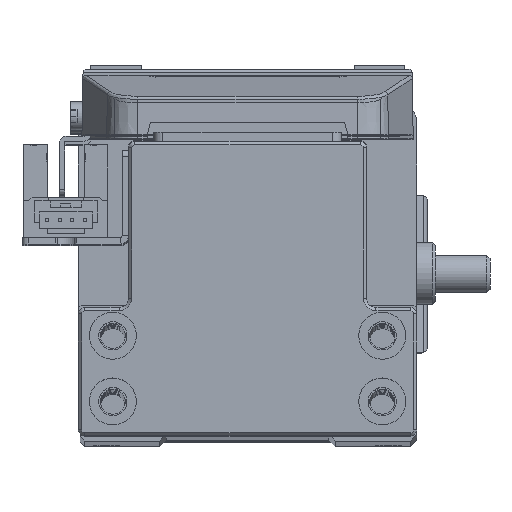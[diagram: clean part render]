
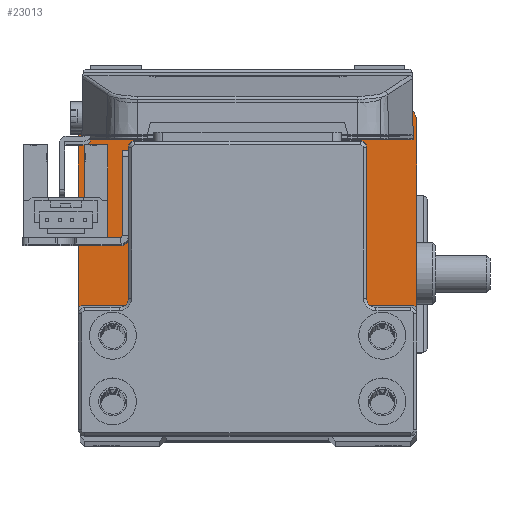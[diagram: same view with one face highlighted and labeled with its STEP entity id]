
A CAD part, top view. The second image highlights one B-rep face of the part: STEP entity #23013.
In plain terms, the highlighted planar face has unit normal (0, 0, 1) as drawn and (0, 0, -1) by its records, which use the part's own axes.
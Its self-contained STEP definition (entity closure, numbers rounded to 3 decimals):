
#109 = CARTESIAN_POINT ( 'NONE',  ( 24., 24., 0. ) ) ;
#119 = DIRECTION ( 'NONE',  ( 0., -1., 0. ) ) ;
#235 = CARTESIAN_POINT ( 'NONE',  ( -21.5, -11., 0. ) ) ;
#250 = CARTESIAN_POINT ( 'NONE',  ( -24., 27., 0. ) ) ;
#264 = DIRECTION ( 'NONE',  ( 1., 0., 0. ) ) ;
#674 = EDGE_CURVE ( 'NONE', #5716, #13326, #4754, .T. ) ;
#804 = VERTEX_POINT ( 'NONE', #8377 ) ;
#907 = VECTOR ( 'NONE', #10496, 1000. ) ;
#1185 = EDGE_CURVE ( 'NONE', #21847, #9971, #26968, .T. ) ;
#1578 = DIRECTION ( 'NONE',  ( 0., 1., 0. ) ) ;
#1796 = DIRECTION ( 'NONE',  ( 1., 0., 0. ) ) ;
#2059 = EDGE_LOOP ( 'NONE', ( #23356, #40995 ) ) ;
#2953 = DIRECTION ( 'NONE',  ( 1., 0., 0. ) ) ;
#3508 = EDGE_CURVE ( 'NONE', #32707, #42466, #27643, .T. ) ;
#3660 = ORIENTED_EDGE ( 'NONE', *, *, #9853, .T. ) ;
#3946 = DIRECTION ( 'NONE',  ( 0., 0., 1. ) ) ;
#4615 = CARTESIAN_POINT ( 'NONE',  ( -24., -27., 0. ) ) ;
#4754 = CIRCLE ( 'NONE', #29896, 2.25 ) ;
#4835 = DIRECTION ( 'NONE',  ( 0., 0., 1. ) ) ;
#5240 = DIRECTION ( 'NONE',  ( 0., 0., 1. ) ) ;
#5404 = ORIENTED_EDGE ( 'NONE', *, *, #22952, .F. ) ;
#5607 = DIRECTION ( 'NONE',  ( 0., 0., 1. ) ) ;
#5716 = VERTEX_POINT ( 'NONE', #20326 ) ;
#5763 = DIRECTION ( 'NONE',  ( 1., 0., 0. ) ) ;
#6099 = CARTESIAN_POINT ( 'NONE',  ( -24., -24., 0. ) ) ;
#6383 = DIRECTION ( 'NONE',  ( 1., 0., 0. ) ) ;
#7174 = DIRECTION ( 'NONE',  ( 0., 0., 1. ) ) ;
#7206 = VERTEX_POINT ( 'NONE', #18474 ) ;
#7450 = VERTEX_POINT ( 'NONE', #42638 ) ;
#7580 = LINE ( 'NONE', #33763, #29325 ) ;
#8377 = CARTESIAN_POINT ( 'NONE',  ( -23.75, -21.5, 0. ) ) ;
#9853 = EDGE_CURVE ( 'NONE', #804, #22405, #30072, .T. ) ;
#9971 = VERTEX_POINT ( 'NONE', #24951 ) ;
#10496 = DIRECTION ( 'NONE',  ( -1., 0., 0. ) ) ;
#10627 = ORIENTED_EDGE ( 'NONE', *, *, #15903, .F. ) ;
#11029 = ORIENTED_EDGE ( 'NONE', *, *, #11673, .F. ) ;
#11233 = CARTESIAN_POINT ( 'NONE',  ( 24., 27., 0. ) ) ;
#11360 = AXIS2_PLACEMENT_3D ( 'NONE', #43017, #5607, #5763 ) ;
#11560 = CIRCLE ( 'NONE', #43897, 2.25 ) ;
#11673 = EDGE_CURVE ( 'NONE', #17182, #15658, #23269, .T. ) ;
#11877 = CARTESIAN_POINT ( 'NONE',  ( -27., 24., 0. ) ) ;
#11894 = CIRCLE ( 'NONE', #14780, 2.25 ) ;
#11974 = CIRCLE ( 'NONE', #32589, 2.25 ) ;
#12334 = ORIENTED_EDGE ( 'NONE', *, *, #29062, .F. ) ;
#12718 = ORIENTED_EDGE ( 'NONE', *, *, #30400, .T. ) ;
#12838 = VERTEX_POINT ( 'NONE', #11877 ) ;
#13326 = VERTEX_POINT ( 'NONE', #15393 ) ;
#13417 = CIRCLE ( 'NONE', #37474, 2.25 ) ;
#13557 = ORIENTED_EDGE ( 'NONE', *, *, #3508, .F. ) ;
#13841 = EDGE_CURVE ( 'NONE', #32949, #14569, #35902, .T. ) ;
#14569 = VERTEX_POINT ( 'NONE', #20125 ) ;
#14780 = AXIS2_PLACEMENT_3D ( 'NONE', #19382, #39888, #43299 ) ;
#15393 = CARTESIAN_POINT ( 'NONE',  ( 19.25, -21.5, 0. ) ) ;
#15658 = VERTEX_POINT ( 'NONE', #22477 ) ;
#15709 = EDGE_CURVE ( 'NONE', #13326, #5716, #13417, .T. ) ;
#15903 = EDGE_CURVE ( 'NONE', #12838, #26441, #7580, .T. ) ;
#16059 = AXIS2_PLACEMENT_3D ( 'NONE', #42794, #5240, #28781 ) ;
#16433 = AXIS2_PLACEMENT_3D ( 'NONE', #27001, #33853, #23420 ) ;
#16570 = ORIENTED_EDGE ( 'NONE', *, *, #21167, .T. ) ;
#16580 = PLANE ( 'NONE',  #25799 ) ;
#17182 = VERTEX_POINT ( 'NONE', #34554 ) ;
#17190 = CIRCLE ( 'NONE', #11360, 3. ) ;
#17262 = EDGE_LOOP ( 'NONE', ( #32161, #30350 ) ) ;
#17641 = CARTESIAN_POINT ( 'NONE',  ( 27., 24., 0. ) ) ;
#18474 = CARTESIAN_POINT ( 'NONE',  ( -23.75, -11., 0. ) ) ;
#19382 = CARTESIAN_POINT ( 'NONE',  ( 21.5, -11., 0. ) ) ;
#19423 = AXIS2_PLACEMENT_3D ( 'NONE', #24060, #30891, #264 ) ;
#20125 = CARTESIAN_POINT ( 'NONE',  ( -24., 27., 0. ) ) ;
#20326 = CARTESIAN_POINT ( 'NONE',  ( 23.75, -21.5, 0. ) ) ;
#20399 = ORIENTED_EDGE ( 'NONE', *, *, #29406, .T. ) ;
#20546 = CIRCLE ( 'NONE', #16433, 2.25 ) ;
#21167 = EDGE_CURVE ( 'NONE', #22405, #804, #20546, .T. ) ;
#21391 = CARTESIAN_POINT ( 'NONE',  ( 21.5, -21.5, 0. ) ) ;
#21444 = AXIS2_PLACEMENT_3D ( 'NONE', #6099, #26671, #6383 ) ;
#21839 = CARTESIAN_POINT ( 'NONE',  ( 24., -24., 0. ) ) ;
#21847 = VERTEX_POINT ( 'NONE', #38535 ) ;
#22405 = VERTEX_POINT ( 'NONE', #26228 ) ;
#22477 = CARTESIAN_POINT ( 'NONE',  ( 24., -27., 0. ) ) ;
#22635 = DIRECTION ( 'NONE',  ( 1., 0., 0. ) ) ;
#22952 = EDGE_CURVE ( 'NONE', #14569, #12838, #17190, .T. ) ;
#23013 = ADVANCED_FACE ( 'NONE', ( #36311, #25110, #24589, #28302, #23532 ), #16580, .F. ) ;
#23196 = DIRECTION ( 'NONE',  ( 0., 0., 1. ) ) ;
#23269 = LINE ( 'NONE', #4615, #29629 ) ;
#23343 = DIRECTION ( 'NONE',  ( 1., 0., 0. ) ) ;
#23356 = ORIENTED_EDGE ( 'NONE', *, *, #674, .T. ) ;
#23420 = DIRECTION ( 'NONE',  ( 1., 0., 0. ) ) ;
#23532 = FACE_OUTER_BOUND ( 'NONE', #23668, .T. ) ;
#23668 = EDGE_LOOP ( 'NONE', ( #12334, #10627, #5404, #24455, #24283, #13557, #41712, #11029 ) ) ;
#23894 = DIRECTION ( 'NONE',  ( 1., 0., 0. ) ) ;
#24060 = CARTESIAN_POINT ( 'NONE',  ( -21.5, -21.5, 0. ) ) ;
#24283 = ORIENTED_EDGE ( 'NONE', *, *, #24791, .F. ) ;
#24455 = ORIENTED_EDGE ( 'NONE', *, *, #13841, .F. ) ;
#24589 = FACE_BOUND ( 'NONE', #2059, .T. ) ;
#24791 = EDGE_CURVE ( 'NONE', #42466, #32949, #33583, .T. ) ;
#24951 = CARTESIAN_POINT ( 'NONE',  ( 23.75, -11., 0. ) ) ;
#25110 = FACE_BOUND ( 'NONE', #31128, .T. ) ;
#25697 = DIRECTION ( 'NONE',  ( 1., 0., 0. ) ) ;
#25799 = AXIS2_PLACEMENT_3D ( 'NONE', #36737, #23196, #2953 ) ;
#26228 = CARTESIAN_POINT ( 'NONE',  ( -19.25, -21.5, 0. ) ) ;
#26441 = VERTEX_POINT ( 'NONE', #43287 ) ;
#26671 = DIRECTION ( 'NONE',  ( 0., 0., 1. ) ) ;
#26968 = CIRCLE ( 'NONE', #16059, 2.25 ) ;
#27001 = CARTESIAN_POINT ( 'NONE',  ( -21.5, -21.5, 0. ) ) ;
#27183 = DIRECTION ( 'NONE',  ( 1., 0., 0. ) ) ;
#27528 = EDGE_CURVE ( 'NONE', #15658, #32707, #40373, .T. ) ;
#27643 = LINE ( 'NONE', #28342, #37766 ) ;
#28302 = FACE_BOUND ( 'NONE', #17262, .T. ) ;
#28342 = CARTESIAN_POINT ( 'NONE',  ( 27., 24., 0. ) ) ;
#28781 = DIRECTION ( 'NONE',  ( 1., 0., 0. ) ) ;
#29055 = CIRCLE ( 'NONE', #21444, 3. ) ;
#29062 = EDGE_CURVE ( 'NONE', #26441, #17182, #29055, .T. ) ;
#29325 = VECTOR ( 'NONE', #119, 1000. ) ;
#29406 = EDGE_CURVE ( 'NONE', #7450, #7206, #11560, .T. ) ;
#29629 = VECTOR ( 'NONE', #1796, 1000. ) ;
#29896 = AXIS2_PLACEMENT_3D ( 'NONE', #21391, #42526, #25697 ) ;
#30072 = CIRCLE ( 'NONE', #19423, 2.25 ) ;
#30350 = ORIENTED_EDGE ( 'NONE', *, *, #1185, .T. ) ;
#30400 = EDGE_CURVE ( 'NONE', #7206, #7450, #11974, .T. ) ;
#30891 = DIRECTION ( 'NONE',  ( 0., 0., 1. ) ) ;
#31128 = EDGE_LOOP ( 'NONE', ( #16570, #3660 ) ) ;
#31287 = AXIS2_PLACEMENT_3D ( 'NONE', #21839, #4835, #39249 ) ;
#32091 = AXIS2_PLACEMENT_3D ( 'NONE', #109, #7174, #27183 ) ;
#32161 = ORIENTED_EDGE ( 'NONE', *, *, #34294, .T. ) ;
#32283 = CARTESIAN_POINT ( 'NONE',  ( -21.5, -11., 0. ) ) ;
#32589 = AXIS2_PLACEMENT_3D ( 'NONE', #235, #3946, #23894 ) ;
#32707 = VERTEX_POINT ( 'NONE', #33617 ) ;
#32745 = DIRECTION ( 'NONE',  ( 0., 0., 1. ) ) ;
#32949 = VERTEX_POINT ( 'NONE', #11233 ) ;
#33583 = CIRCLE ( 'NONE', #32091, 3. ) ;
#33617 = CARTESIAN_POINT ( 'NONE',  ( 27., -24., 0. ) ) ;
#33763 = CARTESIAN_POINT ( 'NONE',  ( -27., 24., 0. ) ) ;
#33853 = DIRECTION ( 'NONE',  ( 0., 0., 1. ) ) ;
#34294 = EDGE_CURVE ( 'NONE', #9971, #21847, #11894, .T. ) ;
#34554 = CARTESIAN_POINT ( 'NONE',  ( -24., -27., 0. ) ) ;
#35144 = EDGE_LOOP ( 'NONE', ( #20399, #12718 ) ) ;
#35902 = LINE ( 'NONE', #250, #907 ) ;
#36311 = FACE_BOUND ( 'NONE', #35144, .T. ) ;
#36737 = CARTESIAN_POINT ( 'NONE',  ( -24., -24., 0. ) ) ;
#37474 = AXIS2_PLACEMENT_3D ( 'NONE', #43581, #43452, #23343 ) ;
#37766 = VECTOR ( 'NONE', #1578, 1000. ) ;
#38535 = CARTESIAN_POINT ( 'NONE',  ( 19.25, -11., 0. ) ) ;
#39249 = DIRECTION ( 'NONE',  ( -1., 0., 0. ) ) ;
#39888 = DIRECTION ( 'NONE',  ( 0., 0., 1. ) ) ;
#40373 = CIRCLE ( 'NONE', #31287, 3. ) ;
#40995 = ORIENTED_EDGE ( 'NONE', *, *, #15709, .T. ) ;
#41712 = ORIENTED_EDGE ( 'NONE', *, *, #27528, .F. ) ;
#42466 = VERTEX_POINT ( 'NONE', #17641 ) ;
#42526 = DIRECTION ( 'NONE',  ( 0., 0., 1. ) ) ;
#42638 = CARTESIAN_POINT ( 'NONE',  ( -19.25, -11., 0. ) ) ;
#42794 = CARTESIAN_POINT ( 'NONE',  ( 21.5, -11., 0. ) ) ;
#43017 = CARTESIAN_POINT ( 'NONE',  ( -24., 24., 0. ) ) ;
#43287 = CARTESIAN_POINT ( 'NONE',  ( -27., -24., 0. ) ) ;
#43299 = DIRECTION ( 'NONE',  ( 1., 0., 0. ) ) ;
#43452 = DIRECTION ( 'NONE',  ( 0., 0., 1. ) ) ;
#43581 = CARTESIAN_POINT ( 'NONE',  ( 21.5, -21.5, 0. ) ) ;
#43897 = AXIS2_PLACEMENT_3D ( 'NONE', #32283, #32745, #22635 ) ;
